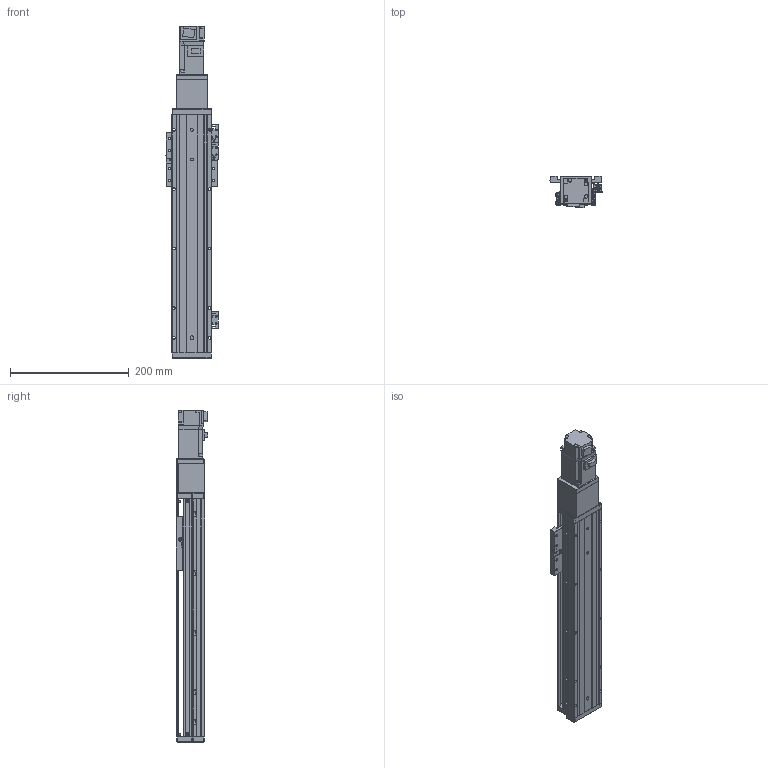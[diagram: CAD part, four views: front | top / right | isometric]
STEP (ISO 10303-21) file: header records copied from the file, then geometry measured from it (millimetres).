
FILE_DESCRIPTION (( 'STEP AP203' ), '1' );
FILE_NAME ('KTHAL60-250-BC-M10-C4L.step', '2022-03-19T08:34:33', ( '微软用户' ), ( '微软中国' ), 'SwSTEP 2.0', 'SolidWorks 2020', '' );
FILE_SCHEMA (( 'CONFIG_CONTROL_DESIGN' ));
Length unit declared in the file: millimetre
Products named in the file (18): CTHA60-017; CTHA60-027; KTHLA60-002; CTHA60-021; CTHA60-013; KTHA60-004; GBT 70.1-M4×16; HG-KR13（三菱）; KTHA60-005; GBT77-2000M3-3; GB¨uT 70.2-M3¡Á5_M3¡Á6; GBT 70.1-M3℅6; KTHAL60-250-BC-M10-C4L; GBT 70.3-M3℅6; CTHA60-016; EE_SX911P_R; CTHA60-006-2_CTHA60-006-2; KTHA60-001_400
Assembly tree (50 placements, depth 2):
  KTHAL60-250-BC-M10-C4L
    KTHA60-001_400
    KTHLA60-002
    KTHA60-004
    KTHA60-005
    GB¨uT 70.2-M3¡Á5_M3¡Á6  x5
    GBT 70.3-M3℅6  x6
    EE_SX911P_R  x3
    CTHA60-017  x3
    CTHA60-021  x2
    GBT 70.1-M4×16  x10
    GBT77-2000M3-3  x6
    GBT 70.1-M3℅6  x6
    CTHA60-016
    CTHA60-006-2_CTHA60-006-2
    CTHA60-027
    CTHA60-013
    HG-KR13（三菱）
Bounding box: 87.82 x 53.3 x 558.6 mm (x, y, z)
Volume: 1032724.4 mm3; surface area: 273811.4 mm2
Topology: 53 solids, 53 shells, 2160 faces, 5106 edges, 3129 vertices
Faces by surface type: plane 1258, cylinder 513, cone 289, torus 86, sphere 14
Entity records: 35420 total; most frequent: CARTESIAN_POINT 5802, DIRECTION 5690, ORIENTED_EDGE 5416, EDGE_CURVE 2708, LINE 1928, VECTOR 1928, AXIS2_PLACEMENT_3D 1881, VERTEX_POINT 1697
